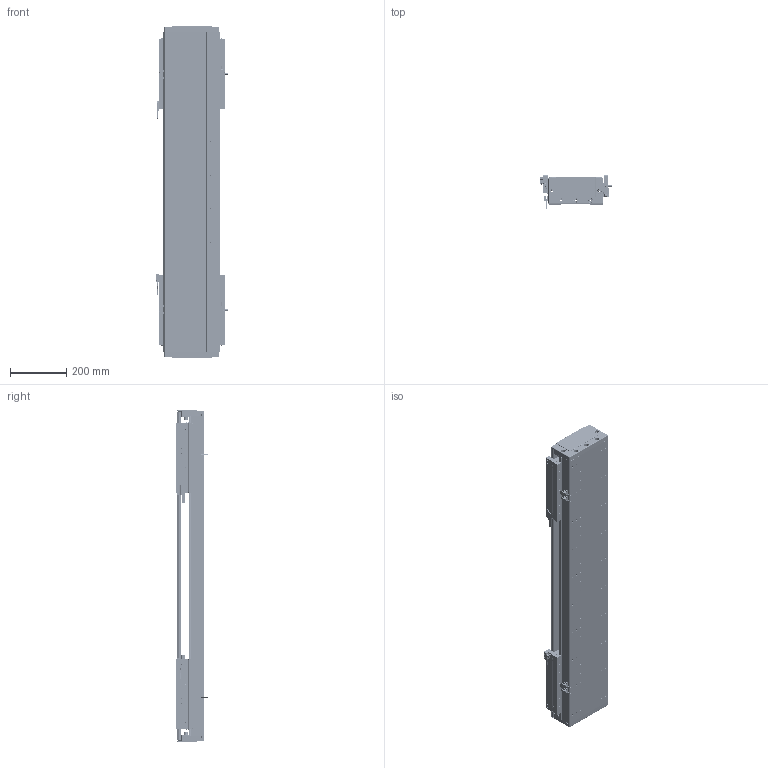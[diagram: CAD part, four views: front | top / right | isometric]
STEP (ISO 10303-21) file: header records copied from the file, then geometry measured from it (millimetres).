
FILE_DESCRIPTION (( 'STEP AP203' ), '1' );
FILE_NAME ('DA-C195-2-C3-T560-C010-0.2 眻盄萇儂.STEP', '2025-08-14T02:24:42', ( '' ), ( '' ), 'SwSTEP 2.0', 'SolidWorks 2019', '' );
FILE_SCHEMA (( 'CONFIG_CONTROL_DESIGN' ));
Length unit declared in the file: millimetre
Products named in the file (16): DA165-GYP-00 光电感应片(默认); DKW168-HXJ-ZJ-00 笢潔滅袉砎蝶; LMT黍杅芛; DA195-DG-H-00  端盖（压铸镂空版）; MS200 棠掑喜S315-T240; CU195-C3賑輸-俋楷; 66156-0001-003-00 裔啣; IU-CU195-L 菁釱絳寢; 葩璃 DA95-GT-T-00; PM-Y65嫖萇羲壽郪璃; IU-CU195-L-00 菁釱(L1140); DA95-HXJ-00 遣喳砎蝶; PM-T45ㄗ侂狟ㄘ; DKW-GYP-ZJ-00 笢潔嫖萇覜茼え; DKW-KGZ-ZJ-00 中间光电开关支架; DA-C195-2-C3-T560-C010-0.2 眻盄萇儂
Assembly tree (28 placements, depth 3):
  DA-C195-2-C3-T560-C010-0.2 眻盄萇儂
    IU-CU195-L 菁釱絳寢
      IU-CU195-L-00 菁釱(L1140)
      葩璃 DA95-GT-T-00  x4
    LMT黍杅芛  x2
    MS200 棠掑喜S315-T240
    PM-T45ㄗ侂狟ㄘ  x4
    DA165-GYP-00 光电感应片(默认)  x2
    DA195-DG-H-00  端盖（压铸镂空版）  x2
    DA95-HXJ-00 遣喳砎蝶  x4
    PM-Y65嫖萇羲壽郪璃
    66156-0001-003-00 裔啣
    DKW168-HXJ-ZJ-00 笢潔滅袉砎蝶
    DKW-GYP-ZJ-00 笢潔嫖萇覜茼え
    DKW-KGZ-ZJ-00 中间光电开关支架
    CU195-C3賑輸-俋楷  x2
Bounding box: 258.2 x 115.6 x 1180 mm (x, y, z)
Volume: 10269355.1 mm3; surface area: 2798827.3 mm2
Topology: 146 solids, 218 shells, 7762 faces, 19624 edges, 11943 vertices
Faces by surface type: cylinder 3192, plane 2786, cone 914, bspline 718, torus 80, sphere 72
Entity records: 154843 total; most frequent: CARTESIAN_POINT 47274, ORIENTED_EDGE 22434, DIRECTION 21376, EDGE_CURVE 11217, AXIS2_PLACEMENT_3D 7791, VERTEX_POINT 7096, VECTOR 5794, LINE 5794
